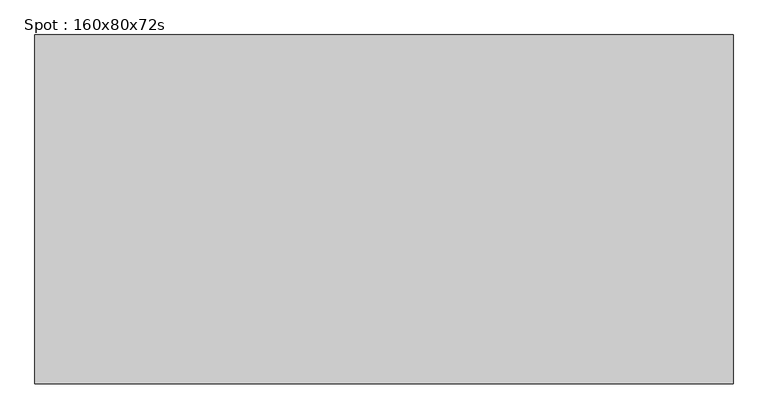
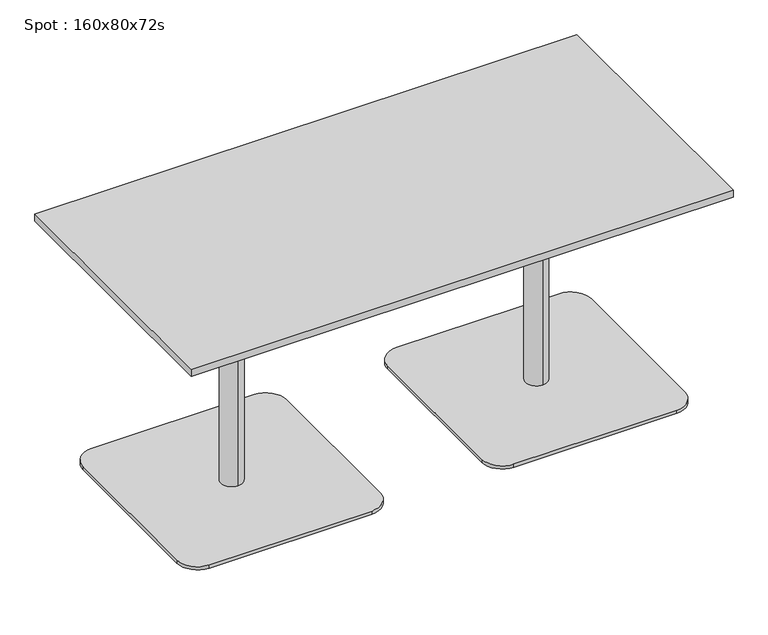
"""IFC4 building model written with IfcOpenShell, lengths in millimetres: furniture geometry, Spot : 160x80x72s."""

from ifc_helpers import new_model, si_unit, point, frame, frame_2d, origin, origin_with_axes, place, context, project, spatial, polyline, circle_curve, trimmed, segment, composite_curve, outline, extrude, source, transform, mapped, element, save
from ifc_brep_helpers import plane_surface, cylinder_surface, revolved_surface, advanced_brep


def spot_160x80x72s_d843316c(model_context):
    return source(origin(), model_context, "Body", "SolidModel", [
        extrude(outline(polyline([(800.0, 400.0), (800.0, -400.0), (-800.0, -400.0), (-800.0, 400.0), (800.0, 400.0)])), frame((0.0, 0.0, 698.0), z_axis=(0.0, 0.0, 1.0), x_axis=(1.0, 0.0, 0.0)), (0.0, 0.0, 1.0), 22.0),
        extrude(outline(composite_curve([segment(trimmed(circle_curve(frame_2d((-210.0, 240.0)), 60.0), [point((-210.0, 300.0))], [point((-150.0, 240.0))], False, "CARTESIAN"), True, "CONTINUOUS"), segment(polyline([(-150.0, 240.0), (-150.0, -240.0)]), True, "CONTINUOUS"), segment(trimmed(circle_curve(frame_2d((-210.0, -240.0)), 60.0), [point((-150.0, -240.0))], [point((-210.0, -300.0))], False, "CARTESIAN"), True, "CONTINUOUS"), segment(polyline([(-210.0, -300.0), (-690.0, -300.0)]), True, "CONTINUOUS"), segment(trimmed(circle_curve(frame_2d((-690.0, -240.0)), 60.0), [point((-690.0, -300.0))], [point((-750.0, -240.0))], False, "CARTESIAN"), True, "CONTINUOUS"), segment(polyline([(-750.0, -240.0), (-750.0, 240.0)]), True, "CONTINUOUS"), segment(trimmed(circle_curve(frame_2d((-690.0, 240.0)), 60.0), [point((-750.0, 240.0))], [point((-690.0, 300.0))], False, "CARTESIAN"), True, "CONTINUOUS"), segment(polyline([(-690.0, 300.0), (-210.0, 300.0)]), True, "CONTINUOUS")], self_intersect=False)), origin_with_axes(), (0.0, 0.0, 1.0), 10.0),
        advanced_brep(
        [(-450.0, 32.0, 10.0), (-450.0, -32.0, 10.0), (-450.0, -32.0, 667.406916), (-450.0, 32.0, 667.406916), (-450.0, 0.0, 10.0), (-450.0, 150.0, 698.0), (-450.0, -150.0, 698.0), (-450.0, 0.0, 698.0), (-450.0, 150.0, 686.7213673), (-450.0, -150.0, 686.7213673)],
        [
            (0, 1, circle_curve(frame((-450.0, 0.0, 10.0), z_axis=(0.0, 0.0, 1.0), x_axis=(0.0, -1.0, 0.0)), 32.0)),
            (1, 2),
            (2, 3, circle_curve(frame((-450.0, 0.0, 667.406916), z_axis=(0.0, 0.0, -1.0), x_axis=(0.0, -1.0, 0.0)), 32.0)),
            (3, 0),
            (1, 0, circle_curve(frame((-450.0, 0.0, 10.0), z_axis=(0.0, 0.0, 1.0), x_axis=(0.0, -1.0, 0.0)), 32.0)),
            (3, 2, circle_curve(frame((-450.0, 0.0, 667.406916), z_axis=(0.0, 0.0, -1.0), x_axis=(0.0, -1.0, 0.0)), 32.0)),
            (4, 1),
            (0, 4),
            (5, 6, circle_curve(frame((-450.0, 0.0, 698.0), z_axis=(0.0, 0.0, 1.0), x_axis=(0.0, -1.0, 0.0)), 150.0)),
            (6, 7),
            (7, 5),
            (6, 5, circle_curve(frame((-450.0, 0.0, 698.0), z_axis=(0.0, 0.0, 1.0), x_axis=(0.0, -1.0, 0.0)), 150.0)),
            (8, 9, circle_curve(frame((-450.0, 0.0, 686.7213673), z_axis=(0.0, 0.0, 1.0), x_axis=(0.0, -1.0, 0.0)), 150.0)),
            (9, 6),
            (5, 8),
            (9, 8, circle_curve(frame((-450.0, 0.0, 686.7213673), z_axis=(0.0, 0.0, 1.0), x_axis=(0.0, -1.0, 0.0)), 150.0)),
            (2, 9),
            (8, 3),
        ],
        [
            cylinder_surface(frame((-450.0, 0.0, 1060.0), z_axis=(0.0, 0.0, -1.0), x_axis=(0.0, -1.0, 0.0)), 32.0),
            plane_surface(frame((-450.0, 0.0, 10.0), z_axis=(0.0, 0.0, -1.0), x_axis=(0.0, -1.0, 0.0))),
            plane_surface(frame((-450.0, 0.0, 698.0), z_axis=(0.0, 0.0, 1.0), x_axis=(0.0, -1.0, 0.0))),
            cylinder_surface(frame((-450.0, 0.0, 1060.0), z_axis=(0.0, 0.0, -1.0), x_axis=(0.0, -1.0, 0.0)), 150.0),
            revolved_surface(polyline([(-450.0, -150.0, 686.7213673), (-450.0, -32.0, 667.406916)]), (-450.0, 0.0, 1060.0), (0.0, 0.0, -1.0)),
        ],
        [
            (0, [[1, 2, 3, 4]]),
            (0, [[5, -4, 6, -2]]),
            (1, [[7, -1, 8]]),
            (1, [[-8, -5, -7]]),
            (2, [[9, 10, 11]]),
            (2, [[12, -11, -10]]),
            (3, [[13, 14, -9, 15]]),
            (3, [[16, -15, -12, -14]]),
            (4, [[-3, 17, -13, 18]]),
            (4, [[-6, -18, -16, -17]]),
        ],
    ),
        extrude(outline(polyline([(-450.0, 0.0), (-470.0, 0.0), (-470.0, 20.0), (-450.0, 20.0), (-450.0, 0.0)])), origin_with_axes(), (0.0, 0.0, 1.0), 10.0),
        extrude(outline(composite_curve([segment(trimmed(circle_curve(frame_2d((690.0, 240.0)), 60.0), [point((690.0, 300.0))], [point((750.0, 240.0))], False, "CARTESIAN"), True, "CONTINUOUS"), segment(polyline([(750.0, 240.0), (750.0, -240.0)]), True, "CONTINUOUS"), segment(trimmed(circle_curve(frame_2d((690.0, -240.0)), 60.0), [point((750.0, -240.0))], [point((690.0, -300.0))], False, "CARTESIAN"), True, "CONTINUOUS"), segment(polyline([(690.0, -300.0), (210.0, -300.0)]), True, "CONTINUOUS"), segment(trimmed(circle_curve(frame_2d((210.0, -240.0)), 60.0), [point((210.0, -300.0))], [point((150.0, -240.0))], False, "CARTESIAN"), True, "CONTINUOUS"), segment(polyline([(150.0, -240.0), (150.0, 240.0)]), True, "CONTINUOUS"), segment(trimmed(circle_curve(frame_2d((210.0, 240.0)), 60.0), [point((150.0, 240.0))], [point((210.0, 300.0))], False, "CARTESIAN"), True, "CONTINUOUS"), segment(polyline([(210.0, 300.0), (690.0, 300.0)]), True, "CONTINUOUS")], self_intersect=False)), origin_with_axes(), (0.0, 0.0, 1.0), 10.0),
        advanced_brep(
        [(450.0, 32.0, 10.0), (450.0, -32.0, 10.0), (450.0, -32.0, 667.406916), (450.0, 32.0, 667.406916), (450.0, 0.0, 10.0), (450.0, 150.0, 698.0), (450.0, -150.0, 698.0), (450.0, 0.0, 698.0), (450.0, 150.0, 686.7213673), (450.0, -150.0, 686.7213673)],
        [
            (0, 1, circle_curve(frame((450.0, 0.0, 10.0), z_axis=(0.0, 0.0, 1.0), x_axis=(0.0, -1.0, 0.0)), 32.0)),
            (1, 2),
            (2, 3, circle_curve(frame((450.0, 0.0, 667.406916), z_axis=(0.0, 0.0, -1.0), x_axis=(0.0, -1.0, 0.0)), 32.0)),
            (3, 0),
            (1, 0, circle_curve(frame((450.0, 0.0, 10.0), z_axis=(0.0, 0.0, 1.0), x_axis=(0.0, -1.0, 0.0)), 32.0)),
            (3, 2, circle_curve(frame((450.0, 0.0, 667.406916), z_axis=(0.0, 0.0, -1.0), x_axis=(0.0, -1.0, 0.0)), 32.0)),
            (4, 1),
            (0, 4),
            (5, 6, circle_curve(frame((450.0, 0.0, 698.0), z_axis=(0.0, 0.0, 1.0), x_axis=(0.0, -1.0, 0.0)), 150.0)),
            (6, 7),
            (7, 5),
            (6, 5, circle_curve(frame((450.0, 0.0, 698.0), z_axis=(0.0, 0.0, 1.0), x_axis=(0.0, -1.0, 0.0)), 150.0)),
            (8, 9, circle_curve(frame((450.0, 0.0, 686.7213673), z_axis=(0.0, 0.0, 1.0), x_axis=(0.0, -1.0, 0.0)), 150.0)),
            (9, 6),
            (5, 8),
            (9, 8, circle_curve(frame((450.0, 0.0, 686.7213673), z_axis=(0.0, 0.0, 1.0), x_axis=(0.0, -1.0, 0.0)), 150.0)),
            (2, 9),
            (8, 3),
        ],
        [
            cylinder_surface(frame((450.0, 0.0, 1060.0), z_axis=(0.0, 0.0, -1.0), x_axis=(0.0, -1.0, 0.0)), 32.0),
            plane_surface(frame((450.0, 0.0, 10.0), z_axis=(0.0, 0.0, -1.0), x_axis=(0.0, -1.0, 0.0))),
            plane_surface(frame((450.0, 0.0, 698.0), z_axis=(0.0, 0.0, 1.0), x_axis=(0.0, -1.0, 0.0))),
            cylinder_surface(frame((450.0, 0.0, 1060.0), z_axis=(0.0, 0.0, -1.0), x_axis=(0.0, -1.0, 0.0)), 150.0),
            revolved_surface(polyline([(450.0, -150.0, 686.7213673), (450.0, -32.0, 667.406916)]), (450.0, 0.0, 1060.0), (0.0, 0.0, -1.0)),
        ],
        [
            (0, [[1, 2, 3, 4]]),
            (0, [[5, -4, 6, -2]]),
            (1, [[7, -1, 8]]),
            (1, [[-8, -5, -7]]),
            (2, [[9, 10, 11]]),
            (2, [[12, -11, -10]]),
            (3, [[13, 14, -9, 15]]),
            (3, [[16, -15, -12, -14]]),
            (4, [[-3, 17, -13, 18]]),
            (4, [[-6, -18, -16, -17]]),
        ],
    ),
        extrude(outline(polyline([(450.0, 0.0), (430.0, 0.0), (430.0, 20.0), (450.0, 20.0), (450.0, 0.0)])), origin_with_axes(), (0.0, 0.0, 1.0), 10.0),
    ])


if __name__ == "__main__":
    model = new_model("IFC4")
    model_context = context("Model", 3, world=origin())
    ifc_project = project(units=[si_unit("LENGTHUNIT", "METRE", prefix="MILLI")], contexts=[model_context])
    site = spatial("IfcSite", under=ifc_project)
    building = spatial("IfcBuilding", under=site)
    placement = place(None, origin())
    spot_160x80x72s_shape = spot_160x80x72s_d843316c(model_context)
    element("IfcFurniture", 1, ObjectType="Spot : 160x80x72s", at=placement, inside=building, context=model_context, shape_type="MappedRepresentation", body=[
        mapped(spot_160x80x72s_shape, transform((0.0, 0.0, 0.0), x_axis=(1.0, 0.0, 0.0), y_axis=(0.0, 1.0, 0.0), z_axis=(0.0, 0.0, 1.0))),
    ])
    save(model, "model.ifc")
